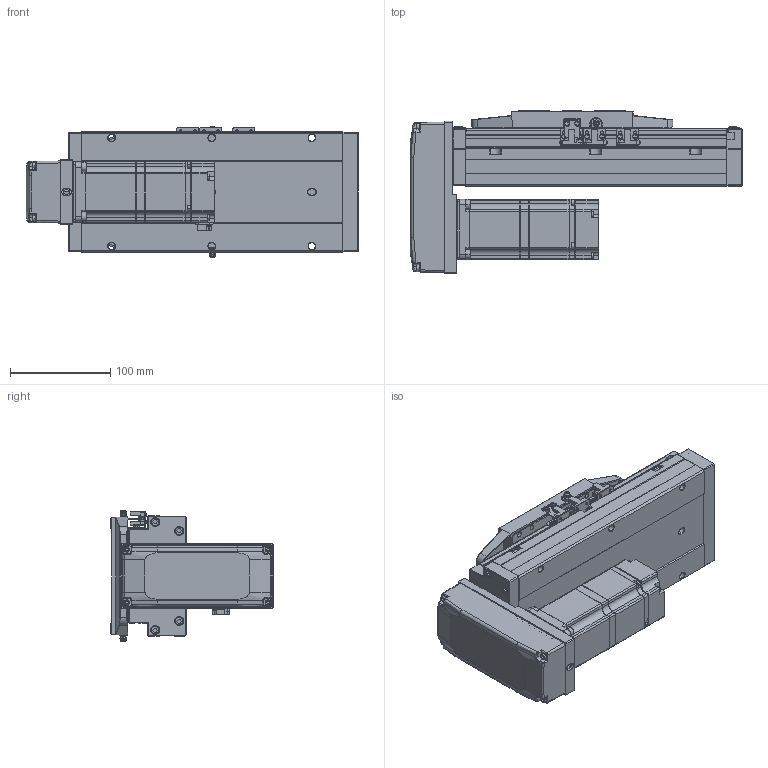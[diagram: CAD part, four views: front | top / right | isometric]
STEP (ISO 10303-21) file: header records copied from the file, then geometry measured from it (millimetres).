
FILE_DESCRIPTION (( 'STEP AP214' ), '1' );
FILE_NAME ('CTH12-L10-S50-BM-C40（简）.STEP', '2023-02-04T06:53:23', ( '' ), ( '' ), 'SwSTEP 2.0', 'SolidWorks 2018', '' );
FILE_SCHEMA (( 'AUTOMOTIVE_DESIGN' ));
Length unit declared in the file: millimetre
Products named in the file (25): CTH400W假蚾啣; 嫖萇羲壽郪磁1; CTH12-L10-S50-BM-C40（简）; 内六角圆柱头螺钉M5装饰螺钉; CTH12菁釱-L261潠; CTH12-BM-02; CTH12-BL_body_4; CTH8耜蚾蟀諉啣ㄗ潠ㄘ; CTH12覜茼え; AC60_Valor predeterminado; CTH12_body_3; CTH400W垫板（3个厚）; CTH12賑怢ㄗ潠ㄘ; 湮賑怢  裔赽-1(CTH12)賑怢; CTH12; 蚐郲; BM-C40; CTH12賑怢郪磁; 内六角圆柱头螺钉M3-2; PM-Y45; CTH嫖萇羲壽假蚾啣; 内六角圆柱头螺钉M3; 内六角圆柱头螺钉M3-1; 嫖萇羲壽郪磁2; hex nuts, style 1-grades ab gb_GB_FASTENER_NUT_SNAB1 M3-N
Assembly tree (45 placements, depth 4):
  CTH12-L10-S50-BM-C40（简）
    CTH12_body_3
    蚐郲  x2
    CTH12-BL_body_4
    CTH12賑怢郪磁
      CTH12
        湮賑怢  裔赽-1(CTH12)賑怢
        CTH12賑怢ㄗ潠ㄘ
    CTH12菁釱-L261潠
    CTH12覜茼え
    嫖萇羲壽郪磁1  x2
      CTH嫖萇羲壽假蚾啣
      PM-Y45
      内六角圆柱头螺钉M3-2
      内六角圆柱头螺钉M3-1
      hex nuts, style 1-grades ab gb_GB_FASTENER_NUT_SNAB1 M3-N
    嫖萇羲壽郪磁2
      CTH嫖萇羲壽假蚾啣
      PM-Y45
      内六角圆柱头螺钉M3-1  x2
      内六角圆柱头螺钉M3-2  x2
      hex nuts, style 1-grades ab gb_GB_FASTENER_NUT_SNAB1 M3-N  x2
    BM-C40
      CTH12-BM-02
      CTH8耜蚾蟀諉啣ㄗ潠ㄘ
    CTH400W垫板（3个厚）
    AC60_Valor predeterminado
    内六角圆柱头螺钉M3  x6
    内六角圆柱头螺钉M5装饰螺钉  x4
    CTH400W假蚾啣
Bounding box: 331.5 x 162.5 x 131.52 mm (x, y, z)
Volume: 2618823.2 mm3; surface area: 394809.3 mm2
Topology: 47 solids, 48 shells, 2562 faces, 6478 edges, 4135 vertices
Faces by surface type: plane 1406, cylinder 775, cone 231, bspline 98, torus 52
Entity records: 68433 total; most frequent: CARTESIAN_POINT 15437, ORIENTED_EDGE 10136, DIRECTION 10069, EDGE_CURVE 5068, AXIS2_PLACEMENT_3D 3403, LINE 3263, VECTOR 3263, VERTEX_POINT 3239
